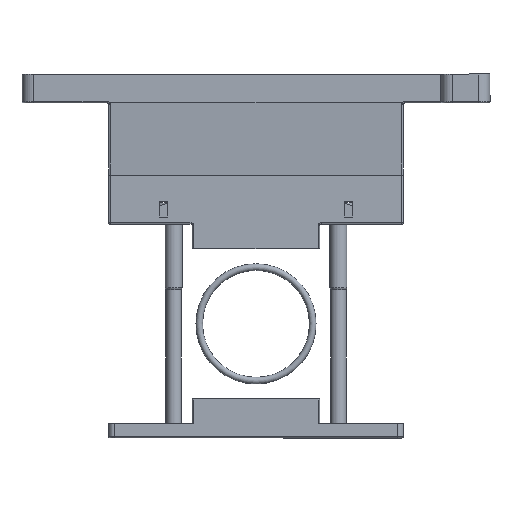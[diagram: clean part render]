
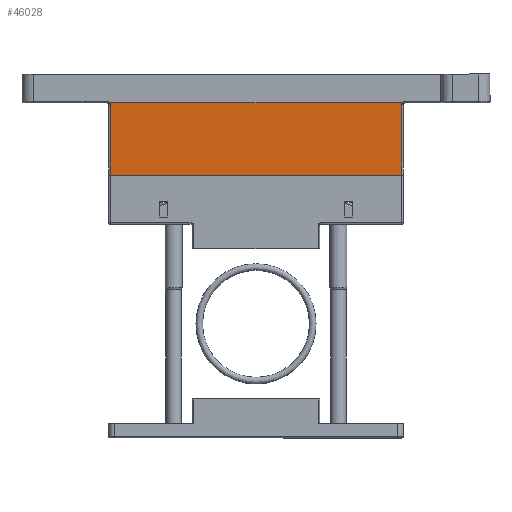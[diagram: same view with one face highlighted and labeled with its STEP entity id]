
A CAD part, left-side view. The second image highlights one B-rep face of the part: STEP entity #46028.
In plain terms, the highlighted planar face has unit normal (-0.998, 0, -0.06).
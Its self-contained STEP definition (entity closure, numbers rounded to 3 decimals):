
#43065=CARTESIAN_POINT('',(-9.3,-50.65,76.496));
#43066=VERTEX_POINT('',#43065);
#43093=CARTESIAN_POINT('',(-9.3,-50.634,76.5));
#43094=VERTEX_POINT('',#43093);
#43102=CARTESIAN_POINT('',(-9.3,-50.634,76.5));
#43103=CARTESIAN_POINT('',(-9.3,-50.637,76.5));
#43104=CARTESIAN_POINT('',(-9.3,-50.641,76.499));
#43105=CARTESIAN_POINT('',(-9.3,-50.646,76.498));
#43106=CARTESIAN_POINT('',(-9.3,-50.648,76.497));
#43107=CARTESIAN_POINT('',(-9.3,-50.65,76.496));
#43108=B_SPLINE_CURVE_WITH_KNOTS('',3,(#43102,#43103,#43104,#43105,#43106,#43107),.UNSPECIFIED.,.F.,.U.,(4,2,4),(0.246,0.246,0.247),.UNSPECIFIED.);
#43109=EDGE_CURVE('',#43094,#43066,#43108,.T.);
#43153=CARTESIAN_POINT('',(-9.3,50.634,76.5));
#43154=VERTEX_POINT('',#43153);
#43162=CARTESIAN_POINT('',(-9.3,-50.634,76.5));
#43163=DIRECTION('',(0.0,1.0,0.0));
#43164=VECTOR('',#43163,101.268);
#43165=LINE('',#43162,#43164);
#43166=EDGE_CURVE('',#43094,#43154,#43165,.T.);
#43568=CARTESIAN_POINT('',(-7.8,-50.5,51.5));
#43569=VERTEX_POINT('',#43568);
#44162=CARTESIAN_POINT('',(-9.3,50.65,76.496));
#44163=VERTEX_POINT('',#44162);
#44164=CARTESIAN_POINT('',(-9.3,50.65,76.496));
#44165=CARTESIAN_POINT('',(-9.3,50.648,76.497));
#44166=CARTESIAN_POINT('',(-9.3,50.646,76.498));
#44167=CARTESIAN_POINT('',(-9.3,50.641,76.499));
#44168=CARTESIAN_POINT('',(-9.3,50.637,76.5));
#44169=CARTESIAN_POINT('',(-9.3,50.634,76.5));
#44170=B_SPLINE_CURVE_WITH_KNOTS('',3,(#44164,#44165,#44166,#44167,#44168,#44169),.UNSPECIFIED.,.F.,.U.,(4,2,4),(0.57,0.57,0.571),.UNSPECIFIED.);
#44171=EDGE_CURVE('',#44163,#43154,#44170,.T.);
#44270=CARTESIAN_POINT('',(-9.268,50.5,75.97));
#44271=VERTEX_POINT('',#44270);
#44279=CARTESIAN_POINT('',(-9.268,51.5,75.97));
#44280=DIRECTION('',(-0.998,0.,-0.06));
#44281=DIRECTION('',(-0.06,0.,0.998));
#44282=AXIS2_PLACEMENT_3D('',#44279,#44280,#44281);
#44283=ELLIPSE('',#44282,1.002,1.0);
#44284=EDGE_CURVE('',#44271,#44163,#44283,.T.);
#44825=CARTESIAN_POINT('',(-7.8,50.5,51.5));
#44826=VERTEX_POINT('',#44825);
#44872=CARTESIAN_POINT('',(-7.8,50.5,51.5));
#44873=DIRECTION('',(-0.06,0.,0.998));
#44874=VECTOR('',#44873,24.514);
#44875=LINE('',#44872,#44874);
#44876=EDGE_CURVE('',#44826,#44271,#44875,.T.);
#44982=CARTESIAN_POINT('',(-9.268,-50.5,75.97));
#44983=VERTEX_POINT('',#44982);
#44991=CARTESIAN_POINT('',(-9.268,-50.5,75.97));
#44992=DIRECTION('',(0.06,0.,-0.998));
#44993=VECTOR('',#44992,24.514);
#44994=LINE('',#44991,#44993);
#44995=EDGE_CURVE('',#44983,#43569,#44994,.T.);
#45024=CARTESIAN_POINT('',(-9.268,-51.5,75.97));
#45025=DIRECTION('',(-0.998,0.,-0.06));
#45026=DIRECTION('',(-0.06,0.,0.998));
#45027=AXIS2_PLACEMENT_3D('',#45024,#45025,#45026);
#45028=ELLIPSE('',#45027,1.002,1.0);
#45029=EDGE_CURVE('',#43066,#44983,#45028,.T.);
#45042=CARTESIAN_POINT('',(-7.8,-50.5,51.5));
#45043=DIRECTION('',(0.0,1.0,0.0));
#45044=VECTOR('',#45043,101.);
#45045=LINE('',#45042,#45044);
#45046=EDGE_CURVE('',#43569,#44826,#45045,.T.);
#46013=CARTESIAN_POINT('',(-7.8,51.,51.5));
#46014=DIRECTION('',(-0.998,0.,-0.06));
#46015=DIRECTION('',(-0.06,0.,0.998));
#46016=AXIS2_PLACEMENT_3D('',#46013,#46014,#46015);
#46017=PLANE('',#46016);
#46018=ORIENTED_EDGE('',*,*,#43109,.F.);
#46019=ORIENTED_EDGE('',*,*,#43166,.T.);
#46020=ORIENTED_EDGE('',*,*,#44171,.F.);
#46021=ORIENTED_EDGE('',*,*,#44284,.F.);
#46022=ORIENTED_EDGE('',*,*,#44876,.F.);
#46023=ORIENTED_EDGE('',*,*,#45046,.F.);
#46024=ORIENTED_EDGE('',*,*,#44995,.F.);
#46025=ORIENTED_EDGE('',*,*,#45029,.F.);
#46026=EDGE_LOOP('',(#46018,#46019,#46020,#46021,#46022,#46023,#46024,#46025));
#46027=FACE_OUTER_BOUND('',#46026,.T.);
#46028=ADVANCED_FACE('',(#46027),#46017,.T.);
